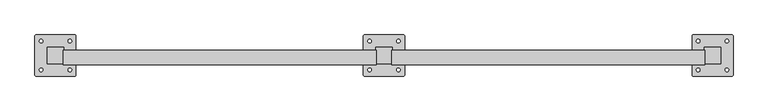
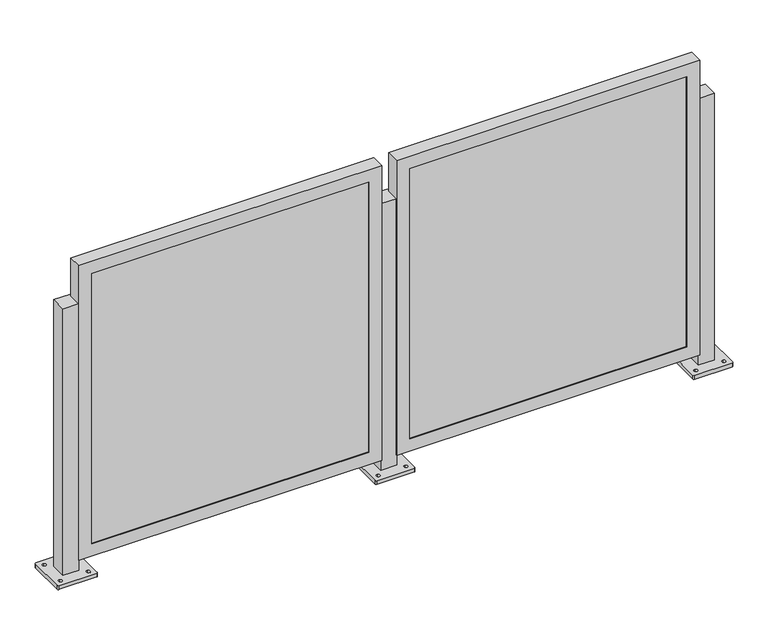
"""IFC4 building model written with IfcOpenShell, lengths in millimetres: railing geometry, Railing - Amico Architectural - Perforated Railing - Apex04."""

from ifc_helpers import new_model, si_unit, frame, origin, place, context, project, spatial, polyline, circle_curve, outline, extrude, faceted_brep, source, transform, mapped, element, save
from ifc_brep_helpers import plane_surface, cylinder_surface, revolved_surface, advanced_brep


def railing_f112f67b(model_context):
    return source(origin(), model_context, "Body", "SolidModel", [
        advanced_brep(
        [(-11298.771202, 4857.370021, 914.4), (-11298.771202, 4806.570021, 914.4), (-11247.971202, 4806.570021, 914.4), (-11247.971202, 4857.370021, 914.4), (-11336.8712022, 4771.645062, 0.0), (-11336.8712022, 4892.29498, 0.0), (-11333.696174, 4895.4700081, 0.0), (-11213.04623, 4895.4700081, 0.0), (-11209.8712019, 4892.29498, 0.0), (-11209.8712019, 4771.645062, 0.0), (-11213.04623, 4768.4700339, 0.0), (-11333.696174, 4768.4700339, 0.0), (-11317.8211896, 4781.9637664, 0.0), (-11317.8211896, 4793.0762788, 0.0), (-11317.8212005, 4870.8637707, 0.0), (-11317.8212005, 4881.9762523, 0.0), (-11228.9211886, 4781.9637679, 0.0), (-11228.9211886, 4793.0762786, 0.0), (-11228.9211995, 4870.8637723, 0.0), (-11228.9211995, 4881.9762521, 0.0), (-11298.771202, 4857.370021, 12.7), (-11298.771202, 4806.570021, 12.7), (-11247.971202, 4806.570021, 12.7), (-11247.971202, 4857.370021, 12.7), (-11336.8712022, 4771.645062, 12.7), (-11333.696174, 4768.4700339, 12.7), (-11213.04623, 4768.4700339, 12.7), (-11209.8712019, 4771.645062, 12.7), (-11209.8712019, 4892.29498, 12.7), (-11213.04623, 4895.4700081, 12.7), (-11333.696174, 4895.4700081, 12.7), (-11336.8712022, 4892.29498, 12.7), (-11317.8211896, 4781.9637664, 12.7), (-11317.8211896, 4793.0762788, 12.7), (-11317.8212005, 4870.8637707, 12.7), (-11317.8212005, 4881.9762523, 12.7), (-11228.9211886, 4781.9637679, 12.7), (-11228.9211886, 4793.0762786, 12.7), (-11228.9211995, 4870.8637723, 12.7), (-11228.9211995, 4881.9762521, 12.7)],
        [
            (0, 1),
            (1, 2),
            (2, 3),
            (3, 0),
            (4, 5),
            (5, 6, circle_curve(frame((-11333.696174, 4892.29498, 0.0), z_axis=(0.0, 0.0, -1.0), x_axis=(0.0, 1.0, 0.0)), 3.1750282)),
            (6, 7),
            (7, 8, circle_curve(frame((-11213.04623, 4892.29498, 0.0), z_axis=(0.0, 0.0, -1.0), x_axis=(0.0, 1.0, 0.0)), 3.1750282)),
            (8, 9),
            (9, 10, circle_curve(frame((-11213.04623, 4771.645062, 0.0), z_axis=(0.0, 0.0, -1.0), x_axis=(0.0, 1.0, 0.0)), 3.1750282)),
            (10, 11),
            (11, 4, circle_curve(frame((-11333.696174, 4771.645062, 0.0), z_axis=(0.0, 0.0, -1.0), x_axis=(0.0, 1.0, 0.0)), 3.1750282)),
            (12, 13, circle_curve(frame((-11317.8211896, 4787.5200226, 0.0), z_axis=(0.0, 0.0, 1.0), x_axis=(0.0, 1.0, 0.0)), 5.5562562)),
            (13, 12, circle_curve(frame((-11317.8211896, 4787.5200226, 0.0), z_axis=(0.0, 0.0, 1.0), x_axis=(0.0, 1.0, 0.0)), 5.5562562)),
            (14, 15, circle_curve(frame((-11317.8212005, 4876.4200115, 0.0), z_axis=(0.0, 0.0, 1.0), x_axis=(0.0, 1.0, 0.0)), 5.5562408)),
            (15, 14, circle_curve(frame((-11317.8212005, 4876.4200115, 0.0), z_axis=(0.0, 0.0, 1.0), x_axis=(0.0, 1.0, 0.0)), 5.5562408)),
            (16, 17, circle_curve(frame((-11228.9211886, 4787.5200232, 0.0), z_axis=(0.0, 0.0, 1.0), x_axis=(0.0, 1.0, 0.0)), 5.5562553)),
            (17, 16, circle_curve(frame((-11228.9211886, 4787.5200232, 0.0), z_axis=(0.0, 0.0, 1.0), x_axis=(0.0, 1.0, 0.0)), 5.5562553)),
            (18, 19, circle_curve(frame((-11228.9211995, 4876.4200122, 0.0), z_axis=(0.0, 0.0, 1.0), x_axis=(0.0, 1.0, 0.0)), 5.5562399)),
            (19, 18, circle_curve(frame((-11228.9211995, 4876.4200122, 0.0), z_axis=(0.0, 0.0, 1.0), x_axis=(0.0, 1.0, 0.0)), 5.5562399)),
            (0, 20),
            (20, 21),
            (21, 1),
            (21, 22),
            (22, 2),
            (22, 23),
            (23, 3),
            (23, 20),
            (24, 25, circle_curve(frame((-11333.696174, 4771.645062, 12.7), z_axis=(0.0, 0.0, 1.0), x_axis=(0.0, 1.0, 0.0)), 3.1750282)),
            (25, 26),
            (26, 27, circle_curve(frame((-11213.04623, 4771.645062, 12.7), z_axis=(0.0, 0.0, 1.0), x_axis=(0.0, 1.0, 0.0)), 3.1750282)),
            (27, 28),
            (28, 29, circle_curve(frame((-11213.04623, 4892.29498, 12.7), z_axis=(0.0, 0.0, 1.0), x_axis=(0.0, 1.0, 0.0)), 3.1750282)),
            (29, 30),
            (30, 31, circle_curve(frame((-11333.696174, 4892.29498, 12.7), z_axis=(0.0, 0.0, 1.0), x_axis=(0.0, 1.0, 0.0)), 3.1750282)),
            (31, 24),
            (32, 33, circle_curve(frame((-11317.8211896, 4787.5200226, 12.7), z_axis=(0.0, 0.0, -1.0), x_axis=(0.0, 1.0, 0.0)), 5.5562562)),
            (33, 32, circle_curve(frame((-11317.8211896, 4787.5200226, 12.7), z_axis=(0.0, 0.0, -1.0), x_axis=(0.0, 1.0, 0.0)), 5.5562562)),
            (34, 35, circle_curve(frame((-11317.8212005, 4876.4200115, 12.7), z_axis=(0.0, 0.0, -1.0), x_axis=(0.0, 1.0, 0.0)), 5.5562408)),
            (35, 34, circle_curve(frame((-11317.8212005, 4876.4200115, 12.7), z_axis=(0.0, 0.0, -1.0), x_axis=(0.0, 1.0, 0.0)), 5.5562408)),
            (36, 37, circle_curve(frame((-11228.9211886, 4787.5200232, 12.7), z_axis=(0.0, 0.0, -1.0), x_axis=(0.0, 1.0, 0.0)), 5.5562553)),
            (37, 36, circle_curve(frame((-11228.9211886, 4787.5200232, 12.7), z_axis=(0.0, 0.0, -1.0), x_axis=(0.0, 1.0, 0.0)), 5.5562553)),
            (38, 39, circle_curve(frame((-11228.9211995, 4876.4200122, 12.7), z_axis=(0.0, 0.0, -1.0), x_axis=(0.0, 1.0, 0.0)), 5.5562399)),
            (39, 38, circle_curve(frame((-11228.9211995, 4876.4200122, 12.7), z_axis=(0.0, 0.0, -1.0), x_axis=(0.0, 1.0, 0.0)), 5.5562399)),
            (24, 4),
            (11, 25),
            (10, 26),
            (9, 27),
            (8, 28),
            (7, 29),
            (6, 30),
            (5, 31),
            (32, 12),
            (13, 33),
            (34, 14),
            (15, 35),
            (36, 16),
            (17, 37),
            (38, 18),
            (19, 39),
        ],
        [
            plane_surface(frame((-11298.771202, 4806.570021, 914.4), z_axis=(0.0, 0.0, 1.0), x_axis=(0.0, -1.0, 0.0))),
            plane_surface(frame((-11298.771202, 4806.570021, 0.0), z_axis=(0.0, 0.0, -1.0), x_axis=(0.0, 1.0, 0.0))),
            plane_surface(frame((-11298.771202, 4857.370021, 914.4), z_axis=(-1.0, 0.0, 0.0), x_axis=(0.0, 0.0, -1.0))),
            plane_surface(frame((-11298.771202, 4806.570021, 914.4), z_axis=(0.0, -1.0, 0.0), x_axis=(0.0, 0.0, -1.0))),
            plane_surface(frame((-11247.971202, 4806.570021, 914.4), z_axis=(1.0, 0.0, 0.0), x_axis=(0.0, 0.0, -1.0))),
            plane_surface(frame((-11247.971202, 4857.370021, 914.4), z_axis=(0.0, 1.0, 0.0), x_axis=(0.0, 0.0, -1.0))),
            plane_surface(frame((-11333.696174, 4774.8200902, 12.7), z_axis=(0.0, 0.0, 1.0), x_axis=(-1.0, 0.0, 0.0))),
            cylinder_surface(frame((-11333.696174, 4771.645062, 0.0), z_axis=(0.0, 0.0, 1.0), x_axis=(0.0, 1.0, 0.0)), 3.1750282),
            plane_surface(frame((-11333.696174, 4768.4700339, 12.7), z_axis=(1.1945386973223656e-12, -1.0, 0.0), x_axis=(0.0, 0.0, -1.0))),
            cylinder_surface(frame((-11213.04623, 4771.645062, 0.0), z_axis=(0.0, 0.0, 1.0), x_axis=(0.0, 1.0, 0.0)), 3.1750282),
            plane_surface(frame((-11209.8712019, 4771.645062, 12.7), z_axis=(1.0, 0.0, 0.0), x_axis=(0.0, 0.0, -1.0))),
            cylinder_surface(frame((-11213.04623, 4892.29498, 0.0), z_axis=(0.0, 0.0, 1.0), x_axis=(0.0, 1.0, 0.0)), 3.1750282),
            plane_surface(frame((-11213.04623, 4895.4700081, 12.7), z_axis=(-1.1946088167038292e-12, 1.0, 0.0), x_axis=(0.0, 0.0, -1.0))),
            cylinder_surface(frame((-11333.696174, 4892.29498, 0.0), z_axis=(0.0, 0.0, 1.0), x_axis=(0.0, 1.0, 0.0)), 3.1750282),
            plane_surface(frame((-11336.8712022, 4892.29498, 12.7), z_axis=(-1.0, 0.0, 0.0), x_axis=(0.0, 0.0, -1.0))),
            revolved_surface(polyline([(-11317.8211896, 4793.076278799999, 0.0), (-11317.8211896, 4793.076278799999, 12.7)]), (-11317.8211896, 4787.5200226, 0.0), (0.0, 0.0, -1.0)),
            revolved_surface(polyline([(-11317.8212005, 4881.9762523, 0.0), (-11317.8212005, 4881.9762523, 12.7)]), (-11317.8212005, 4876.4200115, 0.0), (0.0, 0.0, -1.0)),
            revolved_surface(polyline([(-11228.9211886, 4793.0762785, 0.0), (-11228.9211886, 4793.0762785, 12.7)]), (-11228.9211886, 4787.5200232, 0.0), (0.0, 0.0, -1.0)),
            revolved_surface(polyline([(-11228.9211995, 4881.9762521, 0.0), (-11228.9211995, 4881.9762521, 12.7)]), (-11228.9211995, 4876.4200122, 0.0), (0.0, 0.0, -1.0)),
        ],
        [
            (0, [[1, 2, 3, 4]]),
            (1, [[5, 6, 7, 8, 9, 10, 11, 12], [13, 14], [15, 16], [17, 18], [19, 20]]),
            (2, [[-1, 21, 22, 23]]),
            (3, [[-2, -23, 24, 25]]),
            (4, [[-3, -25, 26, 27]]),
            (5, [[-4, -27, 28, -21]]),
            (6, [[29, 30, 31, 32, 33, 34, 35, 36], [-22, -28, -26, -24], [37, 38], [39, 40], [41, 42], [43, 44]]),
            (7, [[-29, 45, -12, 46]]),
            (8, [[-30, -46, -11, 47]]),
            (9, [[-31, -47, -10, 48]]),
            (10, [[-32, -48, -9, 49]]),
            (11, [[-33, -49, -8, 50]]),
            (12, [[-34, -50, -7, 51]]),
            (13, [[-35, -51, -6, 52]]),
            (14, [[-36, -52, -5, -45]]),
            (15, [[-37, 53, -14, 54]]),
            (15, [[-38, -54, -13, -53]]),
            (16, [[-39, 55, -16, 56]]),
            (16, [[-40, -56, -15, -55]]),
            (17, [[-41, 57, -18, 58]]),
            (17, [[-42, -58, -17, -57]]),
            (18, [[-43, 59, -20, 60]]),
            (18, [[-44, -60, -19, -59]]),
        ],
    ),
        faceted_brep([(-12265.1756554, 4803.826821, 47.625), (-11296.8006554, 4803.826821, 47.625), (-11296.8006554, 4803.826821, 1044.575), (-12265.1756554, 4803.826821, 1044.575), (-12223.9006554, 4803.826821, 1003.3), (-11338.0756554, 4803.826821, 1003.3), (-11338.0756554, 4803.826821, 88.9), (-12223.9006554, 4803.826821, 88.9), (-12223.9006554, 4806.570021, 1003.3), (-12223.9006554, 4806.570021, 88.9), (-12265.1756554, 4847.7001175, 1044.575), (-12265.1756554, 4847.7001175, 47.625), (-12262.0006554, 4847.7001175, 1041.4), (-12262.0006554, 4806.570021, 1041.4), (-12262.0006554, 4806.570021, 50.8), (-12262.0006554, 4847.7001175, 50.8), (-11338.0756554, 4806.570021, 88.9), (-11296.8006554, 4847.7001175, 47.625), (-11299.9756554, 4806.570021, 50.8), (-11299.9756554, 4847.7001175, 50.8), (-11338.0756554, 4806.570021, 1003.3), (-11296.8006554, 4847.7001175, 1044.575), (-11299.9756554, 4806.570021, 1041.4), (-11299.9756554, 4847.7001175, 1041.4)], [[[0, 1, 2, 3], [4, 5, 6, 7]], [[8, 4, 7, 9]], [[3, 10, 11, 0]], [[12, 13, 14, 15]], [[9, 7, 6, 16]], [[0, 11, 17, 1]], [[15, 14, 18, 19]], [[16, 6, 5, 20]], [[1, 17, 21, 2]], [[19, 18, 22, 23]], [[20, 5, 4, 8]], [[10, 21, 17, 11], [15, 19, 23, 12]], [[2, 21, 10, 3]], [[13, 22, 18, 14], [9, 16, 20, 8]], [[23, 22, 13, 12]]]),
        extrude(outline(polyline([(-12262.0006554, 4816.095021), (-11299.9756554, 4816.095021), (-11299.9756554, 4806.570021), (-12262.0006554, 4806.570021), (-12262.0006554, 4816.095021)])), frame((0.0, 0.0, 50.8), z_axis=(0.0, 0.0, 1.0), x_axis=(1.0, 0.0, 0.0)), (0.0, 0.0, 1.0), 990.6),
        advanced_brep(
        [(-12314.771202, 4857.370021, 914.4), (-12314.771202, 4806.570021, 914.4), (-12263.971202, 4806.570021, 914.4), (-12263.971202, 4857.370021, 914.4), (-12352.8712022, 4771.645062, 0.0), (-12352.8712022, 4892.29498, 0.0), (-12349.696174, 4895.4700081, 0.0), (-12229.04623, 4895.4700081, 0.0), (-12225.8712019, 4892.29498, 0.0), (-12225.8712019, 4771.645062, 0.0), (-12229.04623, 4768.4700339, 0.0), (-12349.696174, 4768.4700339, 0.0), (-12333.8211896, 4781.9637664, 0.0), (-12333.8211896, 4793.0762788, 0.0), (-12333.8212005, 4870.8637707, 0.0), (-12333.8212005, 4881.9762523, 0.0), (-12244.9211886, 4781.9637679, 0.0), (-12244.9211886, 4793.0762786, 0.0), (-12244.9211995, 4870.8637723, 0.0), (-12244.9211995, 4881.9762521, 0.0), (-12314.771202, 4857.370021, 12.7), (-12314.771202, 4806.570021, 12.7), (-12263.971202, 4806.570021, 12.7), (-12263.971202, 4857.370021, 12.7), (-12352.8712022, 4771.645062, 12.7), (-12349.696174, 4768.4700339, 12.7), (-12229.04623, 4768.4700339, 12.7), (-12225.8712019, 4771.645062, 12.7), (-12225.8712019, 4892.29498, 12.7), (-12229.04623, 4895.4700081, 12.7), (-12349.696174, 4895.4700081, 12.7), (-12352.8712022, 4892.29498, 12.7), (-12333.8211896, 4781.9637664, 12.7), (-12333.8211896, 4793.0762788, 12.7), (-12333.8212005, 4870.8637707, 12.7), (-12333.8212005, 4881.9762523, 12.7), (-12244.9211886, 4781.9637679, 12.7), (-12244.9211886, 4793.0762786, 12.7), (-12244.9211995, 4870.8637723, 12.7), (-12244.9211995, 4881.9762521, 12.7)],
        [
            (0, 1),
            (1, 2),
            (2, 3),
            (3, 0),
            (4, 5),
            (5, 6, circle_curve(frame((-12349.696174, 4892.29498, 0.0), z_axis=(0.0, 0.0, -1.0), x_axis=(0.0, 1.0, 0.0)), 3.1750282)),
            (6, 7),
            (7, 8, circle_curve(frame((-12229.04623, 4892.29498, 0.0), z_axis=(0.0, 0.0, -1.0), x_axis=(0.0, 1.0, 0.0)), 3.1750282)),
            (8, 9),
            (9, 10, circle_curve(frame((-12229.04623, 4771.645062, 0.0), z_axis=(0.0, 0.0, -1.0), x_axis=(0.0, 1.0, 0.0)), 3.1750282)),
            (10, 11),
            (11, 4, circle_curve(frame((-12349.696174, 4771.645062, 0.0), z_axis=(0.0, 0.0, -1.0), x_axis=(0.0, 1.0, 0.0)), 3.1750282)),
            (12, 13, circle_curve(frame((-12333.8211896, 4787.5200226, 0.0), z_axis=(0.0, 0.0, 1.0), x_axis=(0.0, 1.0, 0.0)), 5.5562562)),
            (13, 12, circle_curve(frame((-12333.8211896, 4787.5200226, 0.0), z_axis=(0.0, 0.0, 1.0), x_axis=(0.0, 1.0, 0.0)), 5.5562562)),
            (14, 15, circle_curve(frame((-12333.8212005, 4876.4200115, 0.0), z_axis=(0.0, 0.0, 1.0), x_axis=(0.0, 1.0, 0.0)), 5.5562408)),
            (15, 14, circle_curve(frame((-12333.8212005, 4876.4200115, 0.0), z_axis=(0.0, 0.0, 1.0), x_axis=(0.0, 1.0, 0.0)), 5.5562408)),
            (16, 17, circle_curve(frame((-12244.9211886, 4787.5200232, 0.0), z_axis=(0.0, 0.0, 1.0), x_axis=(0.0, 1.0, 0.0)), 5.5562553)),
            (17, 16, circle_curve(frame((-12244.9211886, 4787.5200232, 0.0), z_axis=(0.0, 0.0, 1.0), x_axis=(0.0, 1.0, 0.0)), 5.5562553)),
            (18, 19, circle_curve(frame((-12244.9211995, 4876.4200122, 0.0), z_axis=(0.0, 0.0, 1.0), x_axis=(0.0, 1.0, 0.0)), 5.5562399)),
            (19, 18, circle_curve(frame((-12244.9211995, 4876.4200122, 0.0), z_axis=(0.0, 0.0, 1.0), x_axis=(0.0, 1.0, 0.0)), 5.5562399)),
            (0, 20),
            (20, 21),
            (21, 1),
            (21, 22),
            (22, 2),
            (22, 23),
            (23, 3),
            (23, 20),
            (24, 25, circle_curve(frame((-12349.696174, 4771.645062, 12.7), z_axis=(0.0, 0.0, 1.0), x_axis=(0.0, 1.0, 0.0)), 3.1750282)),
            (25, 26),
            (26, 27, circle_curve(frame((-12229.04623, 4771.645062, 12.7), z_axis=(0.0, 0.0, 1.0), x_axis=(0.0, 1.0, 0.0)), 3.1750282)),
            (27, 28),
            (28, 29, circle_curve(frame((-12229.04623, 4892.29498, 12.7), z_axis=(0.0, 0.0, 1.0), x_axis=(0.0, 1.0, 0.0)), 3.1750282)),
            (29, 30),
            (30, 31, circle_curve(frame((-12349.696174, 4892.29498, 12.7), z_axis=(0.0, 0.0, 1.0), x_axis=(0.0, 1.0, 0.0)), 3.1750282)),
            (31, 24),
            (32, 33, circle_curve(frame((-12333.8211896, 4787.5200226, 12.7), z_axis=(0.0, 0.0, -1.0), x_axis=(0.0, 1.0, 0.0)), 5.5562562)),
            (33, 32, circle_curve(frame((-12333.8211896, 4787.5200226, 12.7), z_axis=(0.0, 0.0, -1.0), x_axis=(0.0, 1.0, 0.0)), 5.5562562)),
            (34, 35, circle_curve(frame((-12333.8212005, 4876.4200115, 12.7), z_axis=(0.0, 0.0, -1.0), x_axis=(0.0, 1.0, 0.0)), 5.5562408)),
            (35, 34, circle_curve(frame((-12333.8212005, 4876.4200115, 12.7), z_axis=(0.0, 0.0, -1.0), x_axis=(0.0, 1.0, 0.0)), 5.5562408)),
            (36, 37, circle_curve(frame((-12244.9211886, 4787.5200232, 12.7), z_axis=(0.0, 0.0, -1.0), x_axis=(0.0, 1.0, 0.0)), 5.5562553)),
            (37, 36, circle_curve(frame((-12244.9211886, 4787.5200232, 12.7), z_axis=(0.0, 0.0, -1.0), x_axis=(0.0, 1.0, 0.0)), 5.5562553)),
            (38, 39, circle_curve(frame((-12244.9211995, 4876.4200122, 12.7), z_axis=(0.0, 0.0, -1.0), x_axis=(0.0, 1.0, 0.0)), 5.5562399)),
            (39, 38, circle_curve(frame((-12244.9211995, 4876.4200122, 12.7), z_axis=(0.0, 0.0, -1.0), x_axis=(0.0, 1.0, 0.0)), 5.5562399)),
            (24, 4),
            (11, 25),
            (10, 26),
            (9, 27),
            (8, 28),
            (7, 29),
            (6, 30),
            (5, 31),
            (32, 12),
            (13, 33),
            (34, 14),
            (15, 35),
            (36, 16),
            (17, 37),
            (38, 18),
            (19, 39),
        ],
        [
            plane_surface(frame((-12314.771202, 4806.570021, 914.4), z_axis=(0.0, 0.0, 1.0), x_axis=(0.0, -1.0, 0.0))),
            plane_surface(frame((-12314.771202, 4806.570021, 0.0), z_axis=(0.0, 0.0, -1.0), x_axis=(0.0, 1.0, 0.0))),
            plane_surface(frame((-12314.771202, 4857.370021, 914.4), z_axis=(-1.0, 0.0, 0.0), x_axis=(0.0, 0.0, -1.0))),
            plane_surface(frame((-12314.771202, 4806.570021, 914.4), z_axis=(0.0, -1.0, 0.0), x_axis=(0.0, 0.0, -1.0))),
            plane_surface(frame((-12263.971202, 4806.570021, 914.4), z_axis=(1.0, 0.0, 0.0), x_axis=(0.0, 0.0, -1.0))),
            plane_surface(frame((-12263.971202, 4857.370021, 914.4), z_axis=(0.0, 1.0, 0.0), x_axis=(0.0, 0.0, -1.0))),
            plane_surface(frame((-12349.696174, 4774.8200902, 12.7), z_axis=(0.0, 0.0, 1.0), x_axis=(-1.0, 0.0, 0.0))),
            cylinder_surface(frame((-12349.696174, 4771.645062, 0.0), z_axis=(0.0, 0.0, 1.0), x_axis=(0.0, 1.0, 0.0)), 3.1750282),
            plane_surface(frame((-12349.696174, 4768.4700339, 12.7), z_axis=(1.1945386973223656e-12, -1.0, 0.0), x_axis=(0.0, 0.0, -1.0))),
            cylinder_surface(frame((-12229.04623, 4771.645062, 0.0), z_axis=(0.0, 0.0, 1.0), x_axis=(0.0, 1.0, 0.0)), 3.1750282),
            plane_surface(frame((-12225.8712019, 4771.645062, 12.7), z_axis=(1.0, 0.0, 0.0), x_axis=(0.0, 0.0, -1.0))),
            cylinder_surface(frame((-12229.04623, 4892.29498, 0.0), z_axis=(0.0, 0.0, 1.0), x_axis=(0.0, 1.0, 0.0)), 3.1750282),
            plane_surface(frame((-12229.04623, 4895.4700081, 12.7), z_axis=(-1.1946088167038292e-12, 1.0, 0.0), x_axis=(0.0, 0.0, -1.0))),
            cylinder_surface(frame((-12349.696174, 4892.29498, 0.0), z_axis=(0.0, 0.0, 1.0), x_axis=(0.0, 1.0, 0.0)), 3.1750282),
            plane_surface(frame((-12352.8712022, 4892.29498, 12.7), z_axis=(-1.0, 0.0, 0.0), x_axis=(0.0, 0.0, -1.0))),
            revolved_surface(polyline([(-12333.8211896, 4793.076278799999, 0.0), (-12333.8211896, 4793.076278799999, 12.7)]), (-12333.8211896, 4787.5200226, 0.0), (0.0, 0.0, -1.0)),
            revolved_surface(polyline([(-12333.8212005, 4881.9762523, 0.0), (-12333.8212005, 4881.9762523, 12.7)]), (-12333.8212005, 4876.4200115, 0.0), (0.0, 0.0, -1.0)),
            revolved_surface(polyline([(-12244.9211886, 4793.0762785, 0.0), (-12244.9211886, 4793.0762785, 12.7)]), (-12244.9211886, 4787.5200232, 0.0), (0.0, 0.0, -1.0)),
            revolved_surface(polyline([(-12244.9211995, 4881.9762521, 0.0), (-12244.9211995, 4881.9762521, 12.7)]), (-12244.9211995, 4876.4200122, 0.0), (0.0, 0.0, -1.0)),
        ],
        [
            (0, [[1, 2, 3, 4]]),
            (1, [[5, 6, 7, 8, 9, 10, 11, 12], [13, 14], [15, 16], [17, 18], [19, 20]]),
            (2, [[-1, 21, 22, 23]]),
            (3, [[-2, -23, 24, 25]]),
            (4, [[-3, -25, 26, 27]]),
            (5, [[-4, -27, 28, -21]]),
            (6, [[29, 30, 31, 32, 33, 34, 35, 36], [-22, -28, -26, -24], [37, 38], [39, 40], [41, 42], [43, 44]]),
            (7, [[-29, 45, -12, 46]]),
            (8, [[-30, -46, -11, 47]]),
            (9, [[-31, -47, -10, 48]]),
            (10, [[-32, -48, -9, 49]]),
            (11, [[-33, -49, -8, 50]]),
            (12, [[-34, -50, -7, 51]]),
            (13, [[-35, -51, -6, 52]]),
            (14, [[-36, -52, -5, -45]]),
            (15, [[-37, 53, -14, 54]]),
            (15, [[-38, -54, -13, -53]]),
            (16, [[-39, 55, -16, 56]]),
            (16, [[-40, -56, -15, -55]]),
            (17, [[-41, 57, -18, 58]]),
            (17, [[-42, -58, -17, -57]]),
            (18, [[-43, 59, -20, 60]]),
            (18, [[-44, -60, -19, -59]]),
        ],
    ),
        faceted_brep([(-13281.1756554, 4803.826821, 47.625), (-12312.8006554, 4803.826821, 47.625), (-12312.8006554, 4803.826821, 1044.575), (-13281.1756554, 4803.826821, 1044.575), (-13239.9006554, 4803.826821, 1003.3), (-12354.0756554, 4803.826821, 1003.3), (-12354.0756554, 4803.826821, 88.9), (-13239.9006554, 4803.826821, 88.9), (-13239.9006554, 4806.570021, 1003.3), (-13239.9006554, 4806.570021, 88.9), (-13281.1756554, 4847.7001175, 1044.575), (-13281.1756554, 4847.7001175, 47.625), (-13278.0006554, 4847.7001175, 1041.4), (-13278.0006554, 4806.570021, 1041.4), (-13278.0006554, 4806.570021, 50.8), (-13278.0006554, 4847.7001175, 50.8), (-12354.0756554, 4806.570021, 88.9), (-12312.8006554, 4847.7001175, 47.625), (-12315.9756554, 4806.570021, 50.8), (-12315.9756554, 4847.7001175, 50.8), (-12354.0756554, 4806.570021, 1003.3), (-12312.8006554, 4847.7001175, 1044.575), (-12315.9756554, 4806.570021, 1041.4), (-12315.9756554, 4847.7001175, 1041.4)], [[[0, 1, 2, 3], [4, 5, 6, 7]], [[8, 4, 7, 9]], [[3, 10, 11, 0]], [[12, 13, 14, 15]], [[9, 7, 6, 16]], [[0, 11, 17, 1]], [[15, 14, 18, 19]], [[16, 6, 5, 20]], [[1, 17, 21, 2]], [[19, 18, 22, 23]], [[20, 5, 4, 8]], [[10, 21, 17, 11], [15, 19, 23, 12]], [[2, 21, 10, 3]], [[13, 22, 18, 14], [9, 16, 20, 8]], [[23, 22, 13, 12]]]),
        extrude(outline(polyline([(-13278.0006554, 4816.095021), (-12315.9756554, 4816.095021), (-12315.9756554, 4806.570021), (-13278.0006554, 4806.570021), (-13278.0006554, 4816.095021)])), frame((0.0, 0.0, 50.8), z_axis=(0.0, 0.0, 1.0), x_axis=(1.0, 0.0, 0.0)), (0.0, 0.0, 1.0), 990.6),
        advanced_brep(
        [(-13330.771202, 4857.370021, 914.4), (-13330.771202, 4806.570021, 914.4), (-13279.971202, 4806.570021, 914.4), (-13279.971202, 4857.370021, 914.4), (-13368.8712022, 4771.645062, 0.0), (-13368.8712022, 4892.29498, 0.0), (-13365.696174, 4895.4700081, 0.0), (-13245.04623, 4895.4700081, 0.0), (-13241.8712019, 4892.29498, 0.0), (-13241.8712019, 4771.645062, 0.0), (-13245.04623, 4768.4700339, 0.0), (-13365.696174, 4768.4700339, 0.0), (-13349.8211896, 4781.9637664, 0.0), (-13349.8211896, 4793.0762788, 0.0), (-13349.8212005, 4870.8637707, 0.0), (-13349.8212005, 4881.9762523, 0.0), (-13260.9211886, 4781.9637679, 0.0), (-13260.9211886, 4793.0762786, 0.0), (-13260.9211995, 4870.8637723, 0.0), (-13260.9211995, 4881.9762521, 0.0), (-13330.771202, 4857.370021, 12.7), (-13330.771202, 4806.570021, 12.7), (-13279.971202, 4806.570021, 12.7), (-13279.971202, 4857.370021, 12.7), (-13368.8712022, 4771.645062, 12.7), (-13365.696174, 4768.4700339, 12.7), (-13245.04623, 4768.4700339, 12.7), (-13241.8712019, 4771.645062, 12.7), (-13241.8712019, 4892.29498, 12.7), (-13245.04623, 4895.4700081, 12.7), (-13365.696174, 4895.4700081, 12.7), (-13368.8712022, 4892.29498, 12.7), (-13349.8211896, 4781.9637664, 12.7), (-13349.8211896, 4793.0762788, 12.7), (-13349.8212005, 4870.8637707, 12.7), (-13349.8212005, 4881.9762523, 12.7), (-13260.9211886, 4781.9637679, 12.7), (-13260.9211886, 4793.0762786, 12.7), (-13260.9211995, 4870.8637723, 12.7), (-13260.9211995, 4881.9762521, 12.7)],
        [
            (0, 1),
            (1, 2),
            (2, 3),
            (3, 0),
            (4, 5),
            (5, 6, circle_curve(frame((-13365.696174, 4892.29498, 0.0), z_axis=(0.0, 0.0, -1.0), x_axis=(0.0, 1.0, 0.0)), 3.1750282)),
            (6, 7),
            (7, 8, circle_curve(frame((-13245.04623, 4892.29498, 0.0), z_axis=(0.0, 0.0, -1.0), x_axis=(0.0, 1.0, 0.0)), 3.1750282)),
            (8, 9),
            (9, 10, circle_curve(frame((-13245.04623, 4771.645062, 0.0), z_axis=(0.0, 0.0, -1.0), x_axis=(0.0, 1.0, 0.0)), 3.1750282)),
            (10, 11),
            (11, 4, circle_curve(frame((-13365.696174, 4771.645062, 0.0), z_axis=(0.0, 0.0, -1.0), x_axis=(0.0, 1.0, 0.0)), 3.1750282)),
            (12, 13, circle_curve(frame((-13349.8211896, 4787.5200226, 0.0), z_axis=(0.0, 0.0, 1.0), x_axis=(0.0, 1.0, 0.0)), 5.5562562)),
            (13, 12, circle_curve(frame((-13349.8211896, 4787.5200226, 0.0), z_axis=(0.0, 0.0, 1.0), x_axis=(0.0, 1.0, 0.0)), 5.5562562)),
            (14, 15, circle_curve(frame((-13349.8212005, 4876.4200115, 0.0), z_axis=(0.0, 0.0, 1.0), x_axis=(0.0, 1.0, 0.0)), 5.5562408)),
            (15, 14, circle_curve(frame((-13349.8212005, 4876.4200115, 0.0), z_axis=(0.0, 0.0, 1.0), x_axis=(0.0, 1.0, 0.0)), 5.5562408)),
            (16, 17, circle_curve(frame((-13260.9211886, 4787.5200232, 0.0), z_axis=(0.0, 0.0, 1.0), x_axis=(0.0, 1.0, 0.0)), 5.5562553)),
            (17, 16, circle_curve(frame((-13260.9211886, 4787.5200232, 0.0), z_axis=(0.0, 0.0, 1.0), x_axis=(0.0, 1.0, 0.0)), 5.5562553)),
            (18, 19, circle_curve(frame((-13260.9211995, 4876.4200122, 0.0), z_axis=(0.0, 0.0, 1.0), x_axis=(0.0, 1.0, 0.0)), 5.5562399)),
            (19, 18, circle_curve(frame((-13260.9211995, 4876.4200122, 0.0), z_axis=(0.0, 0.0, 1.0), x_axis=(0.0, 1.0, 0.0)), 5.5562399)),
            (0, 20),
            (20, 21),
            (21, 1),
            (21, 22),
            (22, 2),
            (22, 23),
            (23, 3),
            (23, 20),
            (24, 25, circle_curve(frame((-13365.696174, 4771.645062, 12.7), z_axis=(0.0, 0.0, 1.0), x_axis=(0.0, 1.0, 0.0)), 3.1750282)),
            (25, 26),
            (26, 27, circle_curve(frame((-13245.04623, 4771.645062, 12.7), z_axis=(0.0, 0.0, 1.0), x_axis=(0.0, 1.0, 0.0)), 3.1750282)),
            (27, 28),
            (28, 29, circle_curve(frame((-13245.04623, 4892.29498, 12.7), z_axis=(0.0, 0.0, 1.0), x_axis=(0.0, 1.0, 0.0)), 3.1750282)),
            (29, 30),
            (30, 31, circle_curve(frame((-13365.696174, 4892.29498, 12.7), z_axis=(0.0, 0.0, 1.0), x_axis=(0.0, 1.0, 0.0)), 3.1750282)),
            (31, 24),
            (32, 33, circle_curve(frame((-13349.8211896, 4787.5200226, 12.7), z_axis=(0.0, 0.0, -1.0), x_axis=(0.0, 1.0, 0.0)), 5.5562562)),
            (33, 32, circle_curve(frame((-13349.8211896, 4787.5200226, 12.7), z_axis=(0.0, 0.0, -1.0), x_axis=(0.0, 1.0, 0.0)), 5.5562562)),
            (34, 35, circle_curve(frame((-13349.8212005, 4876.4200115, 12.7), z_axis=(0.0, 0.0, -1.0), x_axis=(0.0, 1.0, 0.0)), 5.5562408)),
            (35, 34, circle_curve(frame((-13349.8212005, 4876.4200115, 12.7), z_axis=(0.0, 0.0, -1.0), x_axis=(0.0, 1.0, 0.0)), 5.5562408)),
            (36, 37, circle_curve(frame((-13260.9211886, 4787.5200232, 12.7), z_axis=(0.0, 0.0, -1.0), x_axis=(0.0, 1.0, 0.0)), 5.5562553)),
            (37, 36, circle_curve(frame((-13260.9211886, 4787.5200232, 12.7), z_axis=(0.0, 0.0, -1.0), x_axis=(0.0, 1.0, 0.0)), 5.5562553)),
            (38, 39, circle_curve(frame((-13260.9211995, 4876.4200122, 12.7), z_axis=(0.0, 0.0, -1.0), x_axis=(0.0, 1.0, 0.0)), 5.5562399)),
            (39, 38, circle_curve(frame((-13260.9211995, 4876.4200122, 12.7), z_axis=(0.0, 0.0, -1.0), x_axis=(0.0, 1.0, 0.0)), 5.5562399)),
            (24, 4),
            (11, 25),
            (10, 26),
            (9, 27),
            (8, 28),
            (7, 29),
            (6, 30),
            (5, 31),
            (32, 12),
            (13, 33),
            (34, 14),
            (15, 35),
            (36, 16),
            (17, 37),
            (38, 18),
            (19, 39),
        ],
        [
            plane_surface(frame((-13330.771202, 4806.570021, 914.4), z_axis=(0.0, 0.0, 1.0), x_axis=(0.0, -1.0, 0.0))),
            plane_surface(frame((-13330.771202, 4806.570021, 0.0), z_axis=(0.0, 0.0, -1.0), x_axis=(0.0, 1.0, 0.0))),
            plane_surface(frame((-13330.771202, 4857.370021, 914.4), z_axis=(-1.0, 0.0, 0.0), x_axis=(0.0, 0.0, -1.0))),
            plane_surface(frame((-13330.771202, 4806.570021, 914.4), z_axis=(0.0, -1.0, 0.0), x_axis=(0.0, 0.0, -1.0))),
            plane_surface(frame((-13279.971202, 4806.570021, 914.4), z_axis=(1.0, 0.0, 0.0), x_axis=(0.0, 0.0, -1.0))),
            plane_surface(frame((-13279.971202, 4857.370021, 914.4), z_axis=(0.0, 1.0, 0.0), x_axis=(0.0, 0.0, -1.0))),
            plane_surface(frame((-13365.696174, 4774.8200902, 12.7), z_axis=(0.0, 0.0, 1.0), x_axis=(-1.0, 0.0, 0.0))),
            cylinder_surface(frame((-13365.696174, 4771.645062, 0.0), z_axis=(0.0, 0.0, 1.0), x_axis=(0.0, 1.0, 0.0)), 3.1750282),
            plane_surface(frame((-13365.696174, 4768.4700339, 12.7), z_axis=(1.1945386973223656e-12, -1.0, 0.0), x_axis=(0.0, 0.0, -1.0))),
            cylinder_surface(frame((-13245.04623, 4771.645062, 0.0), z_axis=(0.0, 0.0, 1.0), x_axis=(0.0, 1.0, 0.0)), 3.1750282),
            plane_surface(frame((-13241.8712019, 4771.645062, 12.7), z_axis=(1.0, 0.0, 0.0), x_axis=(0.0, 0.0, -1.0))),
            cylinder_surface(frame((-13245.04623, 4892.29498, 0.0), z_axis=(0.0, 0.0, 1.0), x_axis=(0.0, 1.0, 0.0)), 3.1750282),
            plane_surface(frame((-13245.04623, 4895.4700081, 12.7), z_axis=(-1.1946088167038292e-12, 1.0, 0.0), x_axis=(0.0, 0.0, -1.0))),
            cylinder_surface(frame((-13365.696174, 4892.29498, 0.0), z_axis=(0.0, 0.0, 1.0), x_axis=(0.0, 1.0, 0.0)), 3.1750282),
            plane_surface(frame((-13368.8712022, 4892.29498, 12.7), z_axis=(-1.0, 0.0, 0.0), x_axis=(0.0, 0.0, -1.0))),
            revolved_surface(polyline([(-13349.8211896, 4793.076278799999, 0.0), (-13349.8211896, 4793.076278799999, 12.7)]), (-13349.8211896, 4787.5200226, 0.0), (0.0, 0.0, -1.0)),
            revolved_surface(polyline([(-13349.8212005, 4881.9762523, 0.0), (-13349.8212005, 4881.9762523, 12.7)]), (-13349.8212005, 4876.4200115, 0.0), (0.0, 0.0, -1.0)),
            revolved_surface(polyline([(-13260.9211886, 4793.0762785, 0.0), (-13260.9211886, 4793.0762785, 12.7)]), (-13260.9211886, 4787.5200232, 0.0), (0.0, 0.0, -1.0)),
            revolved_surface(polyline([(-13260.9211995, 4881.9762521, 0.0), (-13260.9211995, 4881.9762521, 12.7)]), (-13260.9211995, 4876.4200122, 0.0), (0.0, 0.0, -1.0)),
        ],
        [
            (0, [[1, 2, 3, 4]]),
            (1, [[5, 6, 7, 8, 9, 10, 11, 12], [13, 14], [15, 16], [17, 18], [19, 20]]),
            (2, [[-1, 21, 22, 23]]),
            (3, [[-2, -23, 24, 25]]),
            (4, [[-3, -25, 26, 27]]),
            (5, [[-4, -27, 28, -21]]),
            (6, [[29, 30, 31, 32, 33, 34, 35, 36], [-22, -28, -26, -24], [37, 38], [39, 40], [41, 42], [43, 44]]),
            (7, [[-29, 45, -12, 46]]),
            (8, [[-30, -46, -11, 47]]),
            (9, [[-31, -47, -10, 48]]),
            (10, [[-32, -48, -9, 49]]),
            (11, [[-33, -49, -8, 50]]),
            (12, [[-34, -50, -7, 51]]),
            (13, [[-35, -51, -6, 52]]),
            (14, [[-36, -52, -5, -45]]),
            (15, [[-37, 53, -14, 54]]),
            (15, [[-38, -54, -13, -53]]),
            (16, [[-39, 55, -16, 56]]),
            (16, [[-40, -56, -15, -55]]),
            (17, [[-41, 57, -18, 58]]),
            (17, [[-42, -58, -17, -57]]),
            (18, [[-43, 59, -20, 60]]),
            (18, [[-44, -60, -19, -59]]),
        ],
    ),
    ])


if __name__ == "__main__":
    model = new_model("IFC4")
    model_context = context("Model", 3, world=origin())
    ifc_project = project(units=[si_unit("LENGTHUNIT", "METRE", prefix="MILLI")], contexts=[model_context])
    site = spatial("IfcSite", under=ifc_project)
    building = spatial("IfcBuilding", under=site)
    placement = place(None, origin())
    railing_shape = railing_f112f67b(model_context)
    element("IfcRailing", 1, ObjectType="Railing - Amico Architectural - Perforated Railing - Apex04", at=placement, inside=building, context=model_context, shape_type="MappedRepresentation", body=[
        mapped(railing_shape, transform((0.0, 0.0, 0.0), x_axis=(1.0, 0.0, 0.0), y_axis=(0.0, 1.0, 0.0), z_axis=(0.0, 0.0, 1.0))),
    ])
    save(model, "model.ifc")
